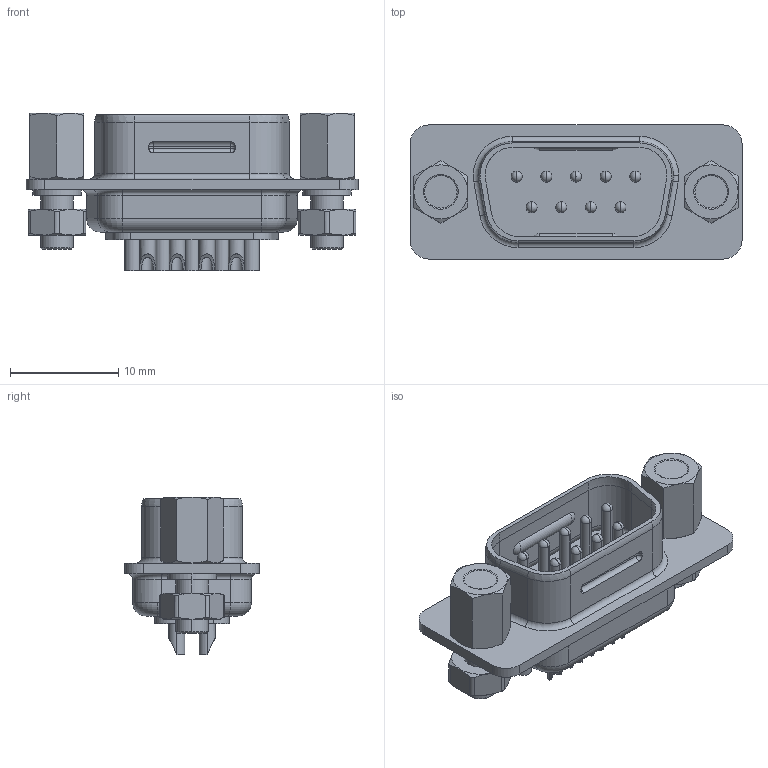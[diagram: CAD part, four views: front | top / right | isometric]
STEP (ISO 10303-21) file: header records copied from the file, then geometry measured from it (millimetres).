
FILE_DESCRIPTION (( 'STEP AP203' ), '1' );
FILE_NAME ('17JE-23090-02(D3B).STEP', '2021-07-30T01:42:46', ( '' ), ( '' ), 'SwSTEP 2.0', 'SolidWorks 2018', '' );
FILE_SCHEMA (( 'CONFIG_CONTROL_DESIGN' ));
Length unit declared in the file: millimetre
Products named in the file (1): 17JE-23090-02(D3B)
Bounding box: 30.7 x 12.4 x 14.6 mm (x, y, z)
Volume: 1731.9 mm3; surface area: 3103.3 mm2
Topology: 1 solids, 1 shells, 407 faces, 998 edges, 598 vertices
Faces by surface type: cylinder 176, plane 99, torus 74, cone 42, sphere 12, bspline 4
Entity records: 12998 total; most frequent: CARTESIAN_POINT 3362, DIRECTION 2149, ORIENTED_EDGE 1928, EDGE_CURVE 964, AXIS2_PLACEMENT_3D 899, VERTEX_POINT 594, CIRCLE 495, EDGE_LOOP 450
